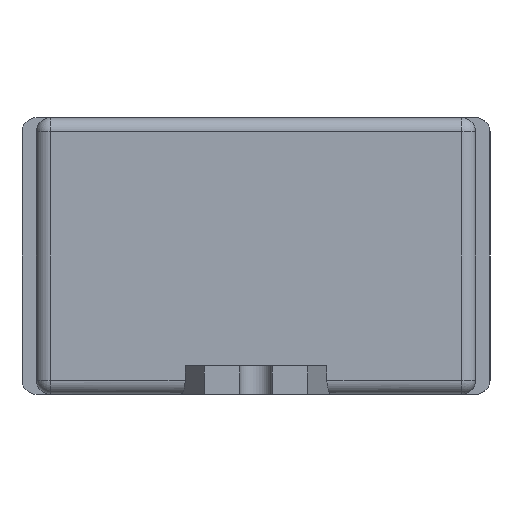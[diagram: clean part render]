
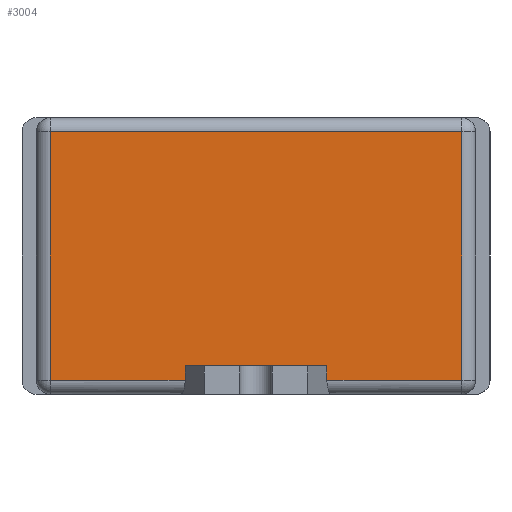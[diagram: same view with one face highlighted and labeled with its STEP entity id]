
A CAD part, left-side view. The second image highlights one B-rep face of the part: STEP entity #3004.
In plain terms, the highlighted planar face has unit normal (-1, 0, 0).
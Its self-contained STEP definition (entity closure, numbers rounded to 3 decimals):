
#78 = DIRECTION ( 'NONE',  ( 0., 0., -1. ) ) ;
#240 = LINE ( 'NONE', #4961, #1326 ) ;
#361 = VECTOR ( 'NONE', #5852, 1000. ) ;
#555 = ORIENTED_EDGE ( 'NONE', *, *, #4808, .T. ) ;
#666 = EDGE_LOOP ( 'NONE', ( #3229, #3601, #4003, #555, #1723, #758, #4244, #3514 ) ) ;
#758 = ORIENTED_EDGE ( 'NONE', *, *, #5082, .T. ) ;
#811 = VERTEX_POINT ( 'NONE', #5813 ) ;
#880 = CARTESIAN_POINT ( 'NONE',  ( -240., -29., 2. ) ) ;
#898 = PLANE ( 'NONE',  #2114 ) ;
#1049 = LINE ( 'NONE', #2901, #3858 ) ;
#1326 = VECTOR ( 'NONE', #4445, 1000. ) ;
#1343 = VECTOR ( 'NONE', #3994, 1000. ) ;
#1565 = DIRECTION ( 'NONE',  ( 0., -1., 0. ) ) ;
#1653 = CARTESIAN_POINT ( 'NONE',  ( -240., -29., 37. ) ) ;
#1703 = VERTEX_POINT ( 'NONE', #1653 ) ;
#1723 = ORIENTED_EDGE ( 'NONE', *, *, #3266, .T. ) ;
#2007 = EDGE_CURVE ( 'NONE', #5738, #811, #2063, .T. ) ;
#2018 = VECTOR ( 'NONE', #4586, 1000. ) ;
#2063 = LINE ( 'NONE', #4429, #5373 ) ;
#2065 = DIRECTION ( 'NONE',  ( 0., 0., -1. ) ) ;
#2076 = CARTESIAN_POINT ( 'NONE',  ( -240., 29., 2. ) ) ;
#2114 = AXIS2_PLACEMENT_3D ( 'NONE', #5964, #2899, #78 ) ;
#2155 = VERTEX_POINT ( 'NONE', #3723 ) ;
#2159 = VERTEX_POINT ( 'NONE', #4115 ) ;
#2172 = LINE ( 'NONE', #4048, #1343 ) ;
#2306 = VERTEX_POINT ( 'NONE', #5855 ) ;
#2431 = EDGE_CURVE ( 'NONE', #2155, #5738, #2172, .T. ) ;
#2766 = LINE ( 'NONE', #4268, #4907 ) ;
#2891 = EDGE_CURVE ( 'NONE', #5480, #1703, #5633, .T. ) ;
#2899 = DIRECTION ( 'NONE',  ( 1., 0., 0. ) ) ;
#2901 = CARTESIAN_POINT ( 'NONE',  ( -240., -31., 2. ) ) ;
#3004 = ADVANCED_FACE ( 'NONE', ( #4679 ), #898, .F. ) ;
#3229 = ORIENTED_EDGE ( 'NONE', *, *, #2431, .T. ) ;
#3266 = EDGE_CURVE ( 'NONE', #4236, #2159, #3517, .T. ) ;
#3514 = ORIENTED_EDGE ( 'NONE', *, *, #4799, .T. ) ;
#3517 = LINE ( 'NONE', #4949, #4960 ) ;
#3546 = DIRECTION ( 'NONE',  ( 0., -1., 0. ) ) ;
#3601 = ORIENTED_EDGE ( 'NONE', *, *, #2007, .T. ) ;
#3648 = CARTESIAN_POINT ( 'NONE',  ( -240., -29., 39. ) ) ;
#3723 = CARTESIAN_POINT ( 'NONE',  ( -240., 29., 37. ) ) ;
#3858 = VECTOR ( 'NONE', #1565, 1000. ) ;
#3994 = DIRECTION ( 'NONE',  ( 0., 0., -1. ) ) ;
#4003 = ORIENTED_EDGE ( 'NONE', *, *, #4373, .F. ) ;
#4048 = CARTESIAN_POINT ( 'NONE',  ( -240., 29., 39. ) ) ;
#4115 = CARTESIAN_POINT ( 'NONE',  ( -240., -10., 2. ) ) ;
#4177 = DIRECTION ( 'NONE',  ( 0., 0., -1. ) ) ;
#4236 = VERTEX_POINT ( 'NONE', #5070 ) ;
#4244 = ORIENTED_EDGE ( 'NONE', *, *, #2891, .T. ) ;
#4268 = CARTESIAN_POINT ( 'NONE',  ( -240., 10., 4. ) ) ;
#4373 = EDGE_CURVE ( 'NONE', #2306, #811, #2766, .T. ) ;
#4429 = CARTESIAN_POINT ( 'NONE',  ( -240., -31., 2. ) ) ;
#4445 = DIRECTION ( 'NONE',  ( 0., -1., 0. ) ) ;
#4586 = DIRECTION ( 'NONE',  ( 0., 0., 1. ) ) ;
#4679 = FACE_OUTER_BOUND ( 'NONE', #666, .T. ) ;
#4799 = EDGE_CURVE ( 'NONE', #1703, #2155, #5882, .T. ) ;
#4808 = EDGE_CURVE ( 'NONE', #2306, #4236, #240, .T. ) ;
#4907 = VECTOR ( 'NONE', #4177, 1000. ) ;
#4931 = CARTESIAN_POINT ( 'NONE',  ( -240., 31., 37. ) ) ;
#4949 = CARTESIAN_POINT ( 'NONE',  ( -240., -10., 4. ) ) ;
#4960 = VECTOR ( 'NONE', #2065, 1000. ) ;
#4961 = CARTESIAN_POINT ( 'NONE',  ( -240., -10., 4. ) ) ;
#5070 = CARTESIAN_POINT ( 'NONE',  ( -240., -10., 4. ) ) ;
#5082 = EDGE_CURVE ( 'NONE', #2159, #5480, #1049, .T. ) ;
#5373 = VECTOR ( 'NONE', #3546, 1000. ) ;
#5480 = VERTEX_POINT ( 'NONE', #880 ) ;
#5633 = LINE ( 'NONE', #3648, #2018 ) ;
#5738 = VERTEX_POINT ( 'NONE', #2076 ) ;
#5813 = CARTESIAN_POINT ( 'NONE',  ( -240., 10., 2. ) ) ;
#5852 = DIRECTION ( 'NONE',  ( 0., 1., 0. ) ) ;
#5855 = CARTESIAN_POINT ( 'NONE',  ( -240., 10., 4. ) ) ;
#5882 = LINE ( 'NONE', #4931, #361 ) ;
#5964 = CARTESIAN_POINT ( 'NONE',  ( -240., -31., 39. ) ) ;
